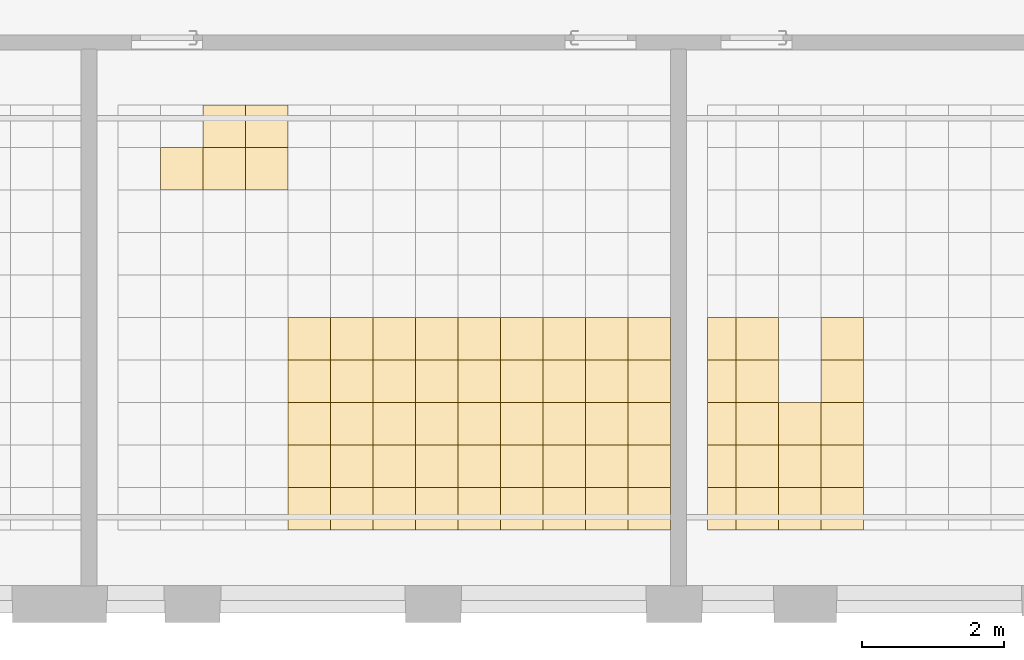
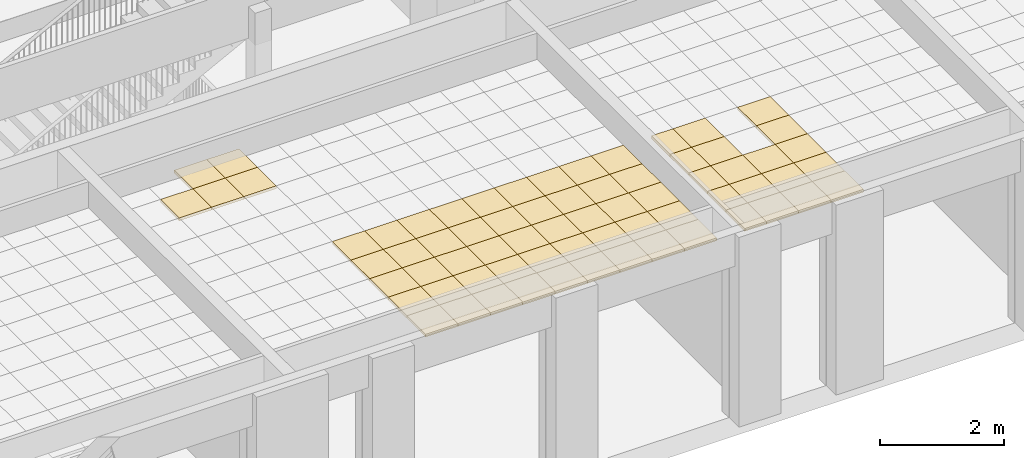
# One storey, part 71 of 79: 68 coverings.
"""IFC2X3 building model written with IfcOpenShell, lengths in millimetres."""

from ifc_helpers import new_model, entity, si_unit, converted_unit, derived_unit, money_unit, direction, frame, origin_with_axes, place, context, subcontext, project, spatial, faceted_brep, material, material_list, type_object, element, save


model = new_model("IFC2X3")

# Units and contexts
model_context = context("Model", 3, precision=0.01, world=origin_with_axes(), true_north=direction((0.0, 1.0)))
body_context = subcontext(model_context, "Body", "Model", "MODEL_VIEW")
ifc_project = project(units=[si_unit("LENGTHUNIT", "METRE", prefix="MILLI"), si_unit("AREAUNIT", "SQUARE_METRE"), si_unit("VOLUMEUNIT", "CUBIC_METRE"), converted_unit("PLANEANGLEUNIT", "DEGREE", entity("IfcPlaneAngleMeasure", 0.0174532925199), si_unit("PLANEANGLEUNIT", "RADIAN"), dimensions=[0, 0, 0, 0, 0, 0, 0]), si_unit("SOLIDANGLEUNIT", "STERADIAN"), money_unit("EUR"), converted_unit("TIMEUNIT", "Year", entity("IfcTimeMeasure", 31556926.0), si_unit("TIMEUNIT", "SECOND"), dimensions=[0, 0, 1, 0, 0, 0, 0]), si_unit("MASSUNIT", "GRAM", prefix="KILO"), si_unit("THERMODYNAMICTEMPERATUREUNIT", "DEGREE_CELSIUS"), si_unit("LUMINOUSINTENSITYUNIT", "LUMEN"), si_unit("ENERGYUNIT", "JOULE", prefix="MEGA"), derived_unit("THERMALCONDUCTANCEUNIT", [(si_unit("POWERUNIT", "WATT"), 1), (si_unit("LENGTHUNIT", "METRE"), -1), (si_unit("THERMODYNAMICTEMPERATUREUNIT", "KELVIN"), -1)]), derived_unit("SPECIFICHEATCAPACITYUNIT", [(si_unit("ENERGYUNIT", "JOULE"), 1), (si_unit("MASSUNIT", "GRAM", prefix="KILO"), -1), (si_unit("THERMODYNAMICTEMPERATUREUNIT", "KELVIN"), -1)]), derived_unit("MASSDENSITYUNIT", [(si_unit("MASSUNIT", "GRAM", prefix="KILO"), 1), (si_unit("VOLUMEUNIT", "CUBIC_METRE"), -1)])], contexts=[model_context])

# Site, building, storey
site_placement = place(None, origin_with_axes())
site = spatial("IfcSite", under=ifc_project, at=site_placement, Name="L.Koidula tn 11b", CompositionType="ELEMENT")
building_placement = place(site_placement, origin_with_axes())
building = spatial("IfcBuilding", under=site, at=building_placement, Name="Rakvere Riigigümnaasium", CompositionType="ELEMENT")
storey_placement = place(building_placement, frame((0.0, 0.0, 3720.0), z_axis=(0.0, 0.0, 1.0), x_axis=(1.0, 0.0, 0.0)))
storey = spatial("IfcBuildingStorey", under=building, at=storey_placement, Name="2.korrus +3,72", CompositionType="ELEMENT", Elevation=3720.0)

# Coverings
ifc_material_1 = material(Name="Karkass")
ifc_material_2 = material(Name="Kipsplaat")
ifc_material_list = material_list([ifc_material_1, ifc_material_2])
covering_type = type_object("IfcCoveringType", Name="SA-LV-Kips-moodul 55", PredefinedType="CEILING")
for number, where, z_axis, x_axis, name in (
    (1, (67449.7153767, 11090.4535941, 2750.0), (0.0, 0.0, 1.0), (1.0, 0.0, 0.0), "L-03"),
    (2, (68649.715325, 11090.4535941, 2750.0), (0.0, 0.0, 1.0), (1.0, 0.0, 0.0), "L-03"),
):
    element("IfcCovering", number, at=place(storey_placement, frame(where, z_axis=z_axis, x_axis=x_axis)), inside=storey, type_object=covering_type, material=ifc_material_list, Name=name, PredefinedType="CEILING", context=body_context, shape_type="Brep", body=[
        faceted_brep([(599.999948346, 0.0, 12.5), (599.999948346, 0.0, 54.5), (0.0, 0.0, 54.5), (0.0, 0.0, 12.5), (599.999948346, 600.0, 12.5), (599.999948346, 600.0, 54.5), (0.0, 600.0, 54.5), (0.0, 600.0, 12.5)], [[[0, 1, 2, 3]], [[4, 5, 1, 0]], [[2, 1, 5, 6]], [[3, 2, 6, 7]], [[3, 7, 4, 0]], [[7, 6, 5, 4]]]),
        faceted_brep([(0.0, 0.0, 0.0), (599.999948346, 0.0, 0.0), (599.999948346, 0.0, 12.5), (0.0, 0.0, 12.5), (0.0, 600.0, 0.0), (599.999948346, 600.0, 0.0), (599.999948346, 600.0, 12.5), (0.0, 600.0, 12.5)], [[[0, 1, 2, 3]], [[0, 4, 5, 1]], [[1, 5, 6, 2]], [[3, 2, 6, 7]], [[4, 0, 3, 7]], [[5, 4, 7, 6]]]),
    ])
for number, where, z_axis, x_axis, name in (
    (3, (71649.7151701, 8090.45359412, 2750.0), (0.0, 0.0, 1.0), (1.0, 0.0, 0.0), "L-03"),
    (4, (72849.7151184, 8690.45359412, 2750.0), (0.0, 0.0, 1.0), (1.0, 0.0, 0.0), "L-03"),
    (5, (72849.7151184, 8090.45359412, 2750.0), (0.0, 0.0, 1.0), (1.0, 0.0, 0.0), "L-03"),
    (6, (72849.7151184, 7490.45359412, 2750.0), (0.0, 0.0, 1.0), (1.0, 0.0, 0.0), "L-03"),
    (7, (74049.7150668, 7490.45359412, 2750.0), (0.0, 0.0, 1.0), (1.0, 0.0, 0.0), "L-03"),
):
    element("IfcCovering", number, at=place(storey_placement, frame(where, z_axis=z_axis, x_axis=x_axis)), inside=storey, type_object=covering_type, material=ifc_material_list, Name=name, PredefinedType="CEILING", context=body_context, shape_type="Brep", body=[
        faceted_brep([(600.0, 0.0, 12.5), (600.0, 0.0, 54.5), (0.0, 0.0, 54.5), (0.0, 0.0, 12.5), (600.0, 600.0, 12.5), (600.0, 600.0, 54.5), (0.0, 600.0, 54.5), (0.0, 600.0, 12.5)], [[[0, 1, 2, 3]], [[4, 5, 1, 0]], [[2, 1, 5, 6]], [[3, 2, 6, 7]], [[3, 7, 4, 0]], [[7, 6, 5, 4]]]),
        faceted_brep([(0.0, 0.0, 0.0), (600.0, 0.0, 0.0), (600.0, 0.0, 12.5), (0.0, 0.0, 12.5), (0.0, 600.0, 0.0), (600.0, 600.0, 0.0), (600.0, 600.0, 12.5), (0.0, 600.0, 12.5)], [[[0, 1, 2, 3]], [[0, 4, 5, 1]], [[1, 5, 6, 2]], [[3, 2, 6, 7]], [[4, 0, 3, 7]], [[5, 4, 7, 6]]]),
    ])
covering_1_placement = place(storey_placement, frame((73449.7151184, 6890.45359412, 2750.0), z_axis=(0.0, 0.0, 1.0), x_axis=(1.0, 0.0, 0.0)))
element("IfcCovering", 8, at=covering_1_placement, inside=storey, type_object=covering_type, material=ifc_material_list, Name="L-03", PredefinedType="CEILING", context=body_context, shape_type="Brep", body=[
    faceted_brep([(599.999948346, 0.0, 12.5), (599.999948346, 0.0, 54.5), (0.0, 0.0, 54.5), (0.0, 0.0, 12.5), (599.999948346, 600.0, 12.5), (599.999948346, 600.0, 54.5), (0.0, 600.0, 54.5), (0.0, 600.0, 12.5)], [[[0, 1, 2, 3]], [[4, 5, 1, 0]], [[2, 1, 5, 6]], [[3, 2, 6, 7]], [[3, 7, 4, 0]], [[7, 6, 5, 4]]]),
    faceted_brep([(0.0, 0.0, 0.0), (599.999948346, 0.0, 0.0), (599.999948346, 0.0, 12.5), (0.0, 0.0, 12.5), (0.0, 600.0, 0.0), (599.999948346, 600.0, 0.0), (599.999948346, 600.0, 12.5), (0.0, 600.0, 12.5)], [[[0, 1, 2, 3]], [[0, 4, 5, 1]], [[1, 5, 6, 2]], [[3, 2, 6, 7]], [[4, 0, 3, 7]], [[5, 4, 7, 6]]]),
])
covering_2_placement = place(storey_placement, frame((74049.7150668, 8690.45359412, 2750.0), z_axis=(0.0, 0.0, 1.0), x_axis=(1.0, 0.0, 0.0)))
element("IfcCovering", 9, at=covering_2_placement, inside=storey, type_object=covering_type, material=ifc_material_list, Name="L-03", PredefinedType="CEILING", context=body_context, shape_type="Brep", body=[
    faceted_brep([(600.0, 0.0, 12.5), (600.0, 0.0, 54.5), (0.0, 0.0, 54.5), (0.0, 0.0, 12.5), (600.0, 600.0, 12.5), (600.0, 600.0, 54.5), (0.0, 600.0, 54.5), (0.0, 600.0, 12.5)], [[[0, 1, 2, 3]], [[4, 5, 1, 0]], [[2, 1, 5, 6]], [[3, 2, 6, 7]], [[3, 7, 4, 0]], [[7, 6, 5, 4]]]),
    faceted_brep([(0.0, 0.0, 0.0), (600.0, 0.0, 0.0), (600.0, 0.0, 12.5), (0.0, 0.0, 12.5), (0.0, 600.0, 0.0), (600.0, 600.0, 0.0), (600.0, 600.0, 12.5), (0.0, 600.0, 12.5)], [[[0, 1, 2, 3]], [[0, 4, 5, 1]], [[1, 5, 6, 2]], [[3, 2, 6, 7]], [[4, 0, 3, 7]], [[5, 4, 7, 6]]]),
])
covering_3_placement = place(storey_placement, frame((73449.7151184, 6290.45359412, 2750.0), z_axis=(0.0, 0.0, 1.0), x_axis=(1.0, 0.0, 0.0)))
element("IfcCovering", 10, at=covering_3_placement, inside=storey, type_object=covering_type, material=ifc_material_list, Name="L-03", PredefinedType="CEILING", context=body_context, shape_type="Brep", body=[
    faceted_brep([(599.999948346, 0.0, 12.5), (599.999948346, 0.0, 54.5), (0.0, 0.0, 54.5), (0.0, 0.0, 12.5), (599.999948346, 600.0, 12.5), (599.999948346, 600.0, 54.5), (0.0, 600.0, 54.5), (0.0, 600.0, 12.5)], [[[0, 1, 2, 3]], [[4, 5, 1, 0]], [[2, 1, 5, 6]], [[3, 2, 6, 7]], [[3, 7, 4, 0]], [[7, 6, 5, 4]]]),
    faceted_brep([(0.0, 0.0, 0.0), (599.999948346, 0.0, 0.0), (599.999948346, 0.0, 12.5), (0.0, 0.0, 12.5), (0.0, 600.0, 0.0), (599.999948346, 600.0, 0.0), (599.999948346, 600.0, 12.5), (0.0, 600.0, 12.5)], [[[0, 1, 2, 3]], [[0, 4, 5, 1]], [[1, 5, 6, 2]], [[3, 2, 6, 7]], [[4, 0, 3, 7]], [[5, 4, 7, 6]]]),
])
for number, where, z_axis, x_axis, name in (
    (11, (74049.7150668, 8090.45359412, 2750.0), (0.0, 0.0, 1.0), (1.0, 0.0, 0.0), "L-03"),
    (12, (74049.7150668, 6290.45359412, 2750.0), (0.0, 0.0, 1.0), (1.0, 0.0, 0.0), "L-03"),
    (13, (74049.7150668, 6890.45359412, 2750.0), (0.0, 0.0, 1.0), (1.0, 0.0, 0.0), "L-03"),
):
    element("IfcCovering", number, at=place(storey_placement, frame(where, z_axis=z_axis, x_axis=x_axis)), inside=storey, type_object=covering_type, material=ifc_material_list, Name=name, PredefinedType="CEILING", context=body_context, shape_type="Brep", body=[
        faceted_brep([(600.0, 0.0, 12.5), (600.0, 0.0, 54.5), (0.0, 0.0, 54.5), (0.0, 0.0, 12.5), (600.0, 600.0, 12.5), (600.0, 600.0, 54.5), (0.0, 600.0, 54.5), (0.0, 600.0, 12.5)], [[[0, 1, 2, 3]], [[4, 5, 1, 0]], [[2, 1, 5, 6]], [[3, 2, 6, 7]], [[3, 7, 4, 0]], [[7, 6, 5, 4]]]),
        faceted_brep([(0.0, 0.0, 0.0), (600.0, 0.0, 0.0), (600.0, 0.0, 12.5), (0.0, 0.0, 12.5), (0.0, 600.0, 0.0), (600.0, 600.0, 0.0), (600.0, 600.0, 12.5), (0.0, 600.0, 12.5)], [[[0, 1, 2, 3]], [[0, 4, 5, 1]], [[1, 5, 6, 2]], [[3, 2, 6, 7]], [[4, 0, 3, 7]], [[5, 4, 7, 6]]]),
    ])
covering_4_placement = place(storey_placement, frame((73449.7151184, 7490.45359412, 2750.0), z_axis=(0.0, 0.0, 1.0), x_axis=(1.0, 0.0, 0.0)))
element("IfcCovering", 14, at=covering_4_placement, inside=storey, type_object=covering_type, material=ifc_material_list, Name="L-03", PredefinedType="CEILING", context=body_context, shape_type="Brep", body=[
    faceted_brep([(599.999948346, 0.0, 12.5), (599.999948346, 0.0, 54.5), (0.0, 0.0, 54.5), (0.0, 0.0, 12.5), (599.999948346, 600.0, 12.5), (599.999948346, 600.0, 54.5), (0.0, 600.0, 54.5), (0.0, 600.0, 12.5)], [[[0, 1, 2, 3]], [[4, 5, 1, 0]], [[2, 1, 5, 6]], [[3, 2, 6, 7]], [[3, 7, 4, 0]], [[7, 6, 5, 4]]]),
    faceted_brep([(0.0, 0.0, 0.0), (599.999948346, 0.0, 0.0), (599.999948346, 0.0, 12.5), (0.0, 0.0, 12.5), (0.0, 600.0, 0.0), (599.999948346, 600.0, 0.0), (599.999948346, 600.0, 12.5), (0.0, 600.0, 12.5)], [[[0, 1, 2, 3]], [[0, 4, 5, 1]], [[1, 5, 6, 2]], [[3, 2, 6, 7]], [[4, 0, 3, 7]], [[5, 4, 7, 6]]]),
])
covering_5_placement = place(storey_placement, frame((72849.7151184, 6290.45359412, 2750.0), z_axis=(0.0, 0.0, 1.0), x_axis=(1.0, 0.0, 0.0)))
element("IfcCovering", 15, at=covering_5_placement, inside=storey, type_object=covering_type, material=ifc_material_list, Name="L-03", PredefinedType="CEILING", context=body_context, shape_type="Brep", body=[
    faceted_brep([(600.0, 0.0, 12.5), (600.0, 0.0, 54.5), (0.0, 0.0, 54.5), (0.0, 0.0, 12.5), (600.0, 600.0, 12.5), (600.0, 600.0, 54.5), (0.0, 600.0, 54.5), (0.0, 600.0, 12.5)], [[[0, 1, 2, 3]], [[4, 5, 1, 0]], [[2, 1, 5, 6]], [[3, 2, 6, 7]], [[3, 7, 4, 0]], [[7, 6, 5, 4]]]),
    faceted_brep([(0.0, 0.0, 0.0), (600.0, 0.0, 0.0), (600.0, 0.0, 12.5), (0.0, 0.0, 12.5), (0.0, 600.0, 0.0), (600.0, 600.0, 0.0), (600.0, 600.0, 12.5), (0.0, 600.0, 12.5)], [[[0, 1, 2, 3]], [[0, 4, 5, 1]], [[1, 5, 6, 2]], [[3, 2, 6, 7]], [[4, 0, 3, 7]], [[5, 4, 7, 6]]]),
])
covering_6_placement = place(storey_placement, frame((73449.7151184, 8090.45359412, 2750.0), z_axis=(0.0, 0.0, 1.0), x_axis=(1.0, 0.0, 0.0)))
element("IfcCovering", 16, at=covering_6_placement, inside=storey, type_object=covering_type, material=ifc_material_list, Name="L-03", PredefinedType="CEILING", context=body_context, shape_type="Brep", body=[
    faceted_brep([(599.999948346, 0.0, 12.5), (599.999948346, 0.0, 54.5), (0.0, 0.0, 54.5), (0.0, 0.0, 12.5), (599.999948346, 600.0, 12.5), (599.999948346, 600.0, 54.5), (0.0, 600.0, 54.5), (0.0, 600.0, 12.5)], [[[0, 1, 2, 3]], [[4, 5, 1, 0]], [[2, 1, 5, 6]], [[3, 2, 6, 7]], [[3, 7, 4, 0]], [[7, 6, 5, 4]]]),
    faceted_brep([(0.0, 0.0, 0.0), (599.999948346, 0.0, 0.0), (599.999948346, 0.0, 12.5), (0.0, 0.0, 12.5), (0.0, 600.0, 0.0), (599.999948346, 600.0, 0.0), (599.999948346, 600.0, 12.5), (0.0, 600.0, 12.5)], [[[0, 1, 2, 3]], [[0, 4, 5, 1]], [[1, 5, 6, 2]], [[3, 2, 6, 7]], [[4, 0, 3, 7]], [[5, 4, 7, 6]]]),
])
for number, where, z_axis, x_axis, name in (
    (17, (71649.7151701, 8690.45359412, 2750.0), (0.0, 0.0, 1.0), (1.0, 0.0, 0.0), "L-03"),
    (18, (72849.7151184, 6890.45359412, 2750.0), (0.0, 0.0, 1.0), (1.0, 0.0, 0.0), "L-03"),
):
    element("IfcCovering", number, at=place(storey_placement, frame(where, z_axis=z_axis, x_axis=x_axis)), inside=storey, type_object=covering_type, material=ifc_material_list, Name=name, PredefinedType="CEILING", context=body_context, shape_type="Brep", body=[
        faceted_brep([(600.0, 0.0, 12.5), (600.0, 0.0, 54.5), (0.0, 0.0, 54.5), (0.0, 0.0, 12.5), (600.0, 600.0, 12.5), (600.0, 600.0, 54.5), (0.0, 600.0, 54.5), (0.0, 600.0, 12.5)], [[[0, 1, 2, 3]], [[4, 5, 1, 0]], [[2, 1, 5, 6]], [[3, 2, 6, 7]], [[3, 7, 4, 0]], [[7, 6, 5, 4]]]),
        faceted_brep([(0.0, 0.0, 0.0), (600.0, 0.0, 0.0), (600.0, 0.0, 12.5), (0.0, 0.0, 12.5), (0.0, 600.0, 0.0), (600.0, 600.0, 0.0), (600.0, 600.0, 12.5), (0.0, 600.0, 12.5)], [[[0, 1, 2, 3]], [[0, 4, 5, 1]], [[1, 5, 6, 2]], [[3, 2, 6, 7]], [[4, 0, 3, 7]], [[5, 4, 7, 6]]]),
    ])
covering_7_placement = place(storey_placement, frame((73449.7151184, 8690.45359412, 2750.0), z_axis=(0.0, 0.0, 1.0), x_axis=(1.0, 0.0, 0.0)))
element("IfcCovering", 19, at=covering_7_placement, inside=storey, type_object=covering_type, material=ifc_material_list, Name="L-03", PredefinedType="CEILING", context=body_context, shape_type="Brep", body=[
    faceted_brep([(599.999948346, 0.0, 12.5), (599.999948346, 0.0, 54.5), (0.0, 0.0, 54.5), (0.0, 0.0, 12.5), (599.999948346, 600.0, 12.5), (599.999948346, 600.0, 54.5), (0.0, 600.0, 54.5), (0.0, 600.0, 12.5)], [[[0, 1, 2, 3]], [[4, 5, 1, 0]], [[2, 1, 5, 6]], [[3, 2, 6, 7]], [[3, 7, 4, 0]], [[7, 6, 5, 4]]]),
    faceted_brep([(0.0, 0.0, 0.0), (599.999948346, 0.0, 0.0), (599.999948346, 0.0, 12.5), (0.0, 0.0, 12.5), (0.0, 600.0, 0.0), (599.999948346, 600.0, 0.0), (599.999948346, 600.0, 12.5), (0.0, 600.0, 12.5)], [[[0, 1, 2, 3]], [[0, 4, 5, 1]], [[1, 5, 6, 2]], [[3, 2, 6, 7]], [[4, 0, 3, 7]], [[5, 4, 7, 6]]]),
])
for number, where, z_axis, x_axis, name in (
    (20, (71649.7151701, 6290.45359412, 2750.0), (0.0, 0.0, 1.0), (1.0, 0.0, 0.0), "L-03"),
    (21, (71649.7151701, 6890.45359412, 2750.0), (0.0, 0.0, 1.0), (1.0, 0.0, 0.0), "L-03"),
):
    element("IfcCovering", number, at=place(storey_placement, frame(where, z_axis=z_axis, x_axis=x_axis)), inside=storey, type_object=covering_type, material=ifc_material_list, Name=name, PredefinedType="CEILING", context=body_context, shape_type="Brep", body=[
        faceted_brep([(600.0, 0.0, 12.5), (600.0, 0.0, 54.5), (0.0, 0.0, 54.5), (0.0, 0.0, 12.5), (600.0, 600.0, 12.5), (600.0, 600.0, 54.5), (0.0, 600.0, 54.5), (0.0, 600.0, 12.5)], [[[0, 1, 2, 3]], [[4, 5, 1, 0]], [[2, 1, 5, 6]], [[3, 2, 6, 7]], [[3, 7, 4, 0]], [[7, 6, 5, 4]]]),
        faceted_brep([(0.0, 0.0, 0.0), (600.0, 0.0, 0.0), (600.0, 0.0, 12.5), (0.0, 0.0, 12.5), (0.0, 600.0, 0.0), (600.0, 600.0, 0.0), (600.0, 600.0, 12.5), (0.0, 600.0, 12.5)], [[[0, 1, 2, 3]], [[0, 4, 5, 1]], [[1, 5, 6, 2]], [[3, 2, 6, 7]], [[4, 0, 3, 7]], [[5, 4, 7, 6]]]),
    ])
for number, where, z_axis, x_axis, name in (
    (22, (69849.7152734, 6290.45359412, 2750.0), (0.0, 0.0, 1.0), (1.0, 0.0, 0.0), "L-03"),
    (23, (72249.7151701, 6290.45359412, 2750.0), (0.0, 0.0, 1.0), (1.0, 0.0, 0.0), "L-03"),
    (24, (69849.7152734, 7490.45359412, 2750.0), (0.0, 0.0, 1.0), (1.0, 0.0, 0.0), "L-03"),
    (25, (69849.7152734, 8090.45359412, 2750.0), (0.0, 0.0, 1.0), (1.0, 0.0, 0.0), "L-03"),
    (26, (72249.7151701, 7490.45359412, 2750.0), (0.0, 0.0, 1.0), (1.0, 0.0, 0.0), "L-03"),
    (27, (69849.7152734, 8690.45359412, 2750.0), (0.0, 0.0, 1.0), (1.0, 0.0, 0.0), "L-03"),
    (28, (72249.7151701, 8090.45359412, 2750.0), (0.0, 0.0, 1.0), (1.0, 0.0, 0.0), "L-03"),
    (29, (72249.7151701, 8690.45359412, 2750.0), (0.0, 0.0, 1.0), (1.0, 0.0, 0.0), "L-03"),
):
    element("IfcCovering", number, at=place(storey_placement, frame(where, z_axis=z_axis, x_axis=x_axis)), inside=storey, type_object=covering_type, material=ifc_material_list, Name=name, PredefinedType="CEILING", context=body_context, shape_type="Brep", body=[
        faceted_brep([(599.999948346, 0.0, 12.5), (599.999948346, 0.0, 54.5), (0.0, 0.0, 54.5), (0.0, 0.0, 12.5), (599.999948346, 600.0, 12.5), (599.999948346, 600.0, 54.5), (0.0, 600.0, 54.5), (0.0, 600.0, 12.5)], [[[0, 1, 2, 3]], [[4, 5, 1, 0]], [[2, 1, 5, 6]], [[3, 2, 6, 7]], [[3, 7, 4, 0]], [[7, 6, 5, 4]]]),
        faceted_brep([(0.0, 0.0, 0.0), (599.999948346, 0.0, 0.0), (599.999948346, 0.0, 12.5), (0.0, 0.0, 12.5), (0.0, 600.0, 0.0), (599.999948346, 600.0, 0.0), (599.999948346, 600.0, 12.5), (0.0, 600.0, 12.5)], [[[0, 1, 2, 3]], [[0, 4, 5, 1]], [[1, 5, 6, 2]], [[3, 2, 6, 7]], [[4, 0, 3, 7]], [[5, 4, 7, 6]]]),
    ])
for number, where, z_axis, x_axis, name in (
    (30, (68049.715325, 11090.4535941, 2750.0), (0.0, 0.0, 1.0), (1.0, 0.0, 0.0), "L-03"),
    (31, (68049.715325, 11690.4535941, 2750.0), (0.0, 0.0, 1.0), (1.0, 0.0, 0.0), "L-03"),
    (32, (70449.7152217, 6890.45359412, 2750.0), (0.0, 0.0, 1.0), (1.0, 0.0, 0.0), "L-03"),
    (33, (70449.7152217, 6290.45359412, 2750.0), (0.0, 0.0, 1.0), (1.0, 0.0, 0.0), "L-03"),
    (34, (69249.7152734, 8090.45359412, 2750.0), (0.0, 0.0, 1.0), (1.0, 0.0, 0.0), "L-03"),
    (35, (69249.7152734, 7490.45359412, 2750.0), (0.0, 0.0, 1.0), (1.0, 0.0, 0.0), "L-03"),
):
    element("IfcCovering", number, at=place(storey_placement, frame(where, z_axis=z_axis, x_axis=x_axis)), inside=storey, type_object=covering_type, material=ifc_material_list, Name=name, PredefinedType="CEILING", context=body_context, shape_type="Brep", body=[
        faceted_brep([(600.0, 0.0, 12.5), (600.0, 0.0, 54.5), (0.0, 0.0, 54.5), (0.0, 0.0, 12.5), (600.0, 600.0, 12.5), (600.0, 600.0, 54.5), (0.0, 600.0, 54.5), (0.0, 600.0, 12.5)], [[[0, 1, 2, 3]], [[4, 5, 1, 0]], [[2, 1, 5, 6]], [[3, 2, 6, 7]], [[3, 7, 4, 0]], [[7, 6, 5, 4]]]),
        faceted_brep([(0.0, 0.0, 0.0), (600.0, 0.0, 0.0), (600.0, 0.0, 12.5), (0.0, 0.0, 12.5), (0.0, 600.0, 0.0), (600.0, 600.0, 0.0), (600.0, 600.0, 12.5), (0.0, 600.0, 12.5)], [[[0, 1, 2, 3]], [[0, 4, 5, 1]], [[1, 5, 6, 2]], [[3, 2, 6, 7]], [[4, 0, 3, 7]], [[5, 4, 7, 6]]]),
    ])
covering_8_placement = place(storey_placement, frame((69849.7152734, 6890.45359412, 2750.0), z_axis=(0.0, 0.0, 1.0), x_axis=(1.0, 0.0, 0.0)))
element("IfcCovering", 36, at=covering_8_placement, inside=storey, type_object=covering_type, material=ifc_material_list, Name="L-03", PredefinedType="CEILING", context=body_context, shape_type="Brep", body=[
    faceted_brep([(599.999948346, 0.0, 12.5), (599.999948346, 0.0, 54.5), (0.0, 0.0, 54.5), (0.0, 0.0, 12.5), (599.999948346, 600.0, 12.5), (599.999948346, 600.0, 54.5), (0.0, 600.0, 54.5), (0.0, 600.0, 12.5)], [[[0, 1, 2, 3]], [[4, 5, 1, 0]], [[2, 1, 5, 6]], [[3, 2, 6, 7]], [[3, 7, 4, 0]], [[7, 6, 5, 4]]]),
    faceted_brep([(0.0, 0.0, 0.0), (599.999948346, 0.0, 0.0), (599.999948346, 0.0, 12.5), (0.0, 0.0, 12.5), (0.0, 600.0, 0.0), (599.999948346, 600.0, 0.0), (599.999948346, 600.0, 12.5), (0.0, 600.0, 12.5)], [[[0, 1, 2, 3]], [[0, 4, 5, 1]], [[1, 5, 6, 2]], [[3, 2, 6, 7]], [[4, 0, 3, 7]], [[5, 4, 7, 6]]]),
])
for number, where, z_axis, x_axis, name in (
    (37, (69249.7152734, 6290.45359412, 2750.0), (0.0, 0.0, 1.0), (1.0, 0.0, 0.0), "L-03"),
    (38, (70449.7152217, 8690.45359412, 2750.0), (0.0, 0.0, 1.0), (1.0, 0.0, 0.0), "L-03"),
):
    element("IfcCovering", number, at=place(storey_placement, frame(where, z_axis=z_axis, x_axis=x_axis)), inside=storey, type_object=covering_type, material=ifc_material_list, Name=name, PredefinedType="CEILING", context=body_context, shape_type="Brep", body=[
        faceted_brep([(600.0, 0.0, 12.5), (600.0, 0.0, 54.5), (0.0, 0.0, 54.5), (0.0, 0.0, 12.5), (600.0, 600.0, 12.5), (600.0, 600.0, 54.5), (0.0, 600.0, 54.5), (0.0, 600.0, 12.5)], [[[0, 1, 2, 3]], [[4, 5, 1, 0]], [[2, 1, 5, 6]], [[3, 2, 6, 7]], [[3, 7, 4, 0]], [[7, 6, 5, 4]]]),
        faceted_brep([(0.0, 0.0, 0.0), (600.0, 0.0, 0.0), (600.0, 0.0, 12.5), (0.0, 0.0, 12.5), (0.0, 600.0, 0.0), (600.0, 600.0, 0.0), (600.0, 600.0, 12.5), (0.0, 600.0, 12.5)], [[[0, 1, 2, 3]], [[0, 4, 5, 1]], [[1, 5, 6, 2]], [[3, 2, 6, 7]], [[4, 0, 3, 7]], [[5, 4, 7, 6]]]),
    ])
covering_9_placement = place(storey_placement, frame((68649.715325, 11690.4535941, 2750.0), z_axis=(0.0, 0.0, 1.0), x_axis=(1.0, 0.0, 0.0)))
element("IfcCovering", 39, at=covering_9_placement, inside=storey, type_object=covering_type, material=ifc_material_list, Name="L-03", PredefinedType="CEILING", context=body_context, shape_type="Brep", body=[
    faceted_brep([(599.999948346, 0.0, 12.5), (599.999948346, 0.0, 54.5), (0.0, 0.0, 54.5), (0.0, 0.0, 12.5), (599.999948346, 600.0, 12.5), (599.999948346, 600.0, 54.5), (0.0, 600.0, 54.5), (0.0, 600.0, 12.5)], [[[0, 1, 2, 3]], [[4, 5, 1, 0]], [[2, 1, 5, 6]], [[3, 2, 6, 7]], [[3, 7, 4, 0]], [[7, 6, 5, 4]]]),
    faceted_brep([(0.0, 0.0, 0.0), (599.999948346, 0.0, 0.0), (599.999948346, 0.0, 12.5), (0.0, 0.0, 12.5), (0.0, 600.0, 0.0), (599.999948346, 600.0, 0.0), (599.999948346, 600.0, 12.5), (0.0, 600.0, 12.5)], [[[0, 1, 2, 3]], [[0, 4, 5, 1]], [[1, 5, 6, 2]], [[3, 2, 6, 7]], [[4, 0, 3, 7]], [[5, 4, 7, 6]]]),
])
covering_10_placement = place(storey_placement, frame((70449.7152217, 8090.45359412, 2750.0), z_axis=(0.0, 0.0, 1.0), x_axis=(1.0, 0.0, 0.0)))
element("IfcCovering", 40, at=covering_10_placement, inside=storey, type_object=covering_type, material=ifc_material_list, Name="L-03", PredefinedType="CEILING", context=body_context, shape_type="Brep", body=[
    faceted_brep([(600.0, 0.0, 12.5), (600.0, 0.0, 54.5), (0.0, 0.0, 54.5), (0.0, 0.0, 12.5), (600.0, 600.0, 12.5), (600.0, 600.0, 54.5), (0.0, 600.0, 54.5), (0.0, 600.0, 12.5)], [[[0, 1, 2, 3]], [[4, 5, 1, 0]], [[2, 1, 5, 6]], [[3, 2, 6, 7]], [[3, 7, 4, 0]], [[7, 6, 5, 4]]]),
    faceted_brep([(0.0, 0.0, 0.0), (600.0, 0.0, 0.0), (600.0, 0.0, 12.5), (0.0, 0.0, 12.5), (0.0, 600.0, 0.0), (600.0, 600.0, 0.0), (600.0, 600.0, 12.5), (0.0, 600.0, 12.5)], [[[0, 1, 2, 3]], [[0, 4, 5, 1]], [[1, 5, 6, 2]], [[3, 2, 6, 7]], [[4, 0, 3, 7]], [[5, 4, 7, 6]]]),
])
covering_11_placement = place(storey_placement, frame((72249.7151701, 6890.45359412, 2750.0), z_axis=(0.0, 0.0, 1.0), x_axis=(1.0, 0.0, 0.0)))
element("IfcCovering", 41, at=covering_11_placement, inside=storey, type_object=covering_type, material=ifc_material_list, Name="L-03", PredefinedType="CEILING", context=body_context, shape_type="Brep", body=[
    faceted_brep([(599.999948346, 0.0, 12.5), (599.999948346, 0.0, 54.5), (0.0, 0.0, 54.5), (0.0, 0.0, 12.5), (599.999948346, 600.0, 12.5), (599.999948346, 600.0, 54.5), (0.0, 600.0, 54.5), (0.0, 600.0, 12.5)], [[[0, 1, 2, 3]], [[4, 5, 1, 0]], [[2, 1, 5, 6]], [[3, 2, 6, 7]], [[3, 7, 4, 0]], [[7, 6, 5, 4]]]),
    faceted_brep([(0.0, 0.0, 0.0), (599.999948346, 0.0, 0.0), (599.999948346, 0.0, 12.5), (0.0, 0.0, 12.5), (0.0, 600.0, 0.0), (599.999948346, 600.0, 0.0), (599.999948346, 600.0, 12.5), (0.0, 600.0, 12.5)], [[[0, 1, 2, 3]], [[0, 4, 5, 1]], [[1, 5, 6, 2]], [[3, 2, 6, 7]], [[4, 0, 3, 7]], [[5, 4, 7, 6]]]),
])
covering_12_placement = place(storey_placement, frame((70449.7152217, 7490.45359412, 2750.0), z_axis=(0.0, 0.0, 1.0), x_axis=(1.0, 0.0, 0.0)))
element("IfcCovering", 42, at=covering_12_placement, inside=storey, type_object=covering_type, material=ifc_material_list, Name="L-03", PredefinedType="CEILING", context=body_context, shape_type="Brep", body=[
    faceted_brep([(600.0, 0.0, 12.5), (600.0, 0.0, 54.5), (0.0, 0.0, 54.5), (0.0, 0.0, 12.5), (600.0, 600.0, 12.5), (600.0, 600.0, 54.5), (0.0, 600.0, 54.5), (0.0, 600.0, 12.5)], [[[0, 1, 2, 3]], [[4, 5, 1, 0]], [[2, 1, 5, 6]], [[3, 2, 6, 7]], [[3, 7, 4, 0]], [[7, 6, 5, 4]]]),
    faceted_brep([(0.0, 0.0, 0.0), (600.0, 0.0, 0.0), (600.0, 0.0, 12.5), (0.0, 0.0, 12.5), (0.0, 600.0, 0.0), (600.0, 600.0, 0.0), (600.0, 600.0, 12.5), (0.0, 600.0, 12.5)], [[[0, 1, 2, 3]], [[0, 4, 5, 1]], [[1, 5, 6, 2]], [[3, 2, 6, 7]], [[4, 0, 3, 7]], [[5, 4, 7, 6]]]),
])
for number, where, z_axis, x_axis, name in (
    (43, (71049.7152217, 6890.45359412, 2750.0), (0.0, 0.0, 1.0), (1.0, 0.0, 0.0), "L-03"),
    (44, (71049.7152217, 6290.45359412, 2750.0), (0.0, 0.0, 1.0), (1.0, 0.0, 0.0), "L-03"),
):
    element("IfcCovering", number, at=place(storey_placement, frame(where, z_axis=z_axis, x_axis=x_axis)), inside=storey, type_object=covering_type, material=ifc_material_list, Name=name, PredefinedType="CEILING", context=body_context, shape_type="Brep", body=[
        faceted_brep([(599.999948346, 0.0, 12.5), (599.999948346, 0.0, 54.5), (0.0, 0.0, 54.5), (0.0, 0.0, 12.5), (599.999948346, 600.0, 12.5), (599.999948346, 600.0, 54.5), (0.0, 600.0, 54.5), (0.0, 600.0, 12.5)], [[[0, 1, 2, 3]], [[4, 5, 1, 0]], [[2, 1, 5, 6]], [[3, 2, 6, 7]], [[3, 7, 4, 0]], [[7, 6, 5, 4]]]),
        faceted_brep([(0.0, 0.0, 0.0), (599.999948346, 0.0, 0.0), (599.999948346, 0.0, 12.5), (0.0, 0.0, 12.5), (0.0, 600.0, 0.0), (599.999948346, 600.0, 0.0), (599.999948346, 600.0, 12.5), (0.0, 600.0, 12.5)], [[[0, 1, 2, 3]], [[0, 4, 5, 1]], [[1, 5, 6, 2]], [[3, 2, 6, 7]], [[4, 0, 3, 7]], [[5, 4, 7, 6]]]),
    ])
for number, where, z_axis, x_axis, name in (
    (45, (69249.7152734, 6890.45359412, 2750.0), (0.0, 0.0, 1.0), (1.0, 0.0, 0.0), "L-03"),
    (46, (69249.7152734, 8690.45359412, 2750.0), (0.0, 0.0, 1.0), (1.0, 0.0, 0.0), "L-03"),
    (47, (71649.7151701, 7490.45359412, 2750.0), (0.0, 0.0, 1.0), (1.0, 0.0, 0.0), "L-03"),
):
    element("IfcCovering", number, at=place(storey_placement, frame(where, z_axis=z_axis, x_axis=x_axis)), inside=storey, type_object=covering_type, material=ifc_material_list, Name=name, PredefinedType="CEILING", context=body_context, shape_type="Brep", body=[
        faceted_brep([(600.0, 0.0, 12.5), (600.0, 0.0, 54.5), (0.0, 0.0, 54.5), (0.0, 0.0, 12.5), (600.0, 600.0, 12.5), (600.0, 600.0, 54.5), (0.0, 600.0, 54.5), (0.0, 600.0, 12.5)], [[[0, 1, 2, 3]], [[4, 5, 1, 0]], [[2, 1, 5, 6]], [[3, 2, 6, 7]], [[3, 7, 4, 0]], [[7, 6, 5, 4]]]),
        faceted_brep([(0.0, 0.0, 0.0), (600.0, 0.0, 0.0), (600.0, 0.0, 12.5), (0.0, 0.0, 12.5), (0.0, 600.0, 0.0), (600.0, 600.0, 0.0), (600.0, 600.0, 12.5), (0.0, 600.0, 12.5)], [[[0, 1, 2, 3]], [[0, 4, 5, 1]], [[1, 5, 6, 2]], [[3, 2, 6, 7]], [[4, 0, 3, 7]], [[5, 4, 7, 6]]]),
    ])
for number, where, z_axis, x_axis, name in (
    (48, (71049.7152217, 8090.45359412, 2750.0), (0.0, 0.0, 1.0), (1.0, 0.0, 0.0), "L-03"),
    (49, (71049.7152217, 8690.45359412, 2750.0), (0.0, 0.0, 1.0), (1.0, 0.0, 0.0), "L-03"),
    (50, (71049.7152217, 7490.45359412, 2750.0), (0.0, 0.0, 1.0), (1.0, 0.0, 0.0), "L-03"),
):
    element("IfcCovering", number, at=place(storey_placement, frame(where, z_axis=z_axis, x_axis=x_axis)), inside=storey, type_object=covering_type, material=ifc_material_list, Name=name, PredefinedType="CEILING", context=body_context, shape_type="Brep", body=[
        faceted_brep([(599.999948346, 0.0, 12.5), (599.999948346, 0.0, 54.5), (0.0, 0.0, 54.5), (0.0, 0.0, 12.5), (599.999948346, 600.0, 12.5), (599.999948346, 600.0, 54.5), (0.0, 600.0, 54.5), (0.0, 600.0, 12.5)], [[[0, 1, 2, 3]], [[4, 5, 1, 0]], [[2, 1, 5, 6]], [[3, 2, 6, 7]], [[3, 7, 4, 0]], [[7, 6, 5, 4]]]),
        faceted_brep([(0.0, 0.0, 0.0), (599.999948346, 0.0, 0.0), (599.999948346, 0.0, 12.5), (0.0, 0.0, 12.5), (0.0, 600.0, 0.0), (599.999948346, 600.0, 0.0), (599.999948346, 600.0, 12.5), (0.0, 600.0, 12.5)], [[[0, 1, 2, 3]], [[0, 4, 5, 1]], [[1, 5, 6, 2]], [[3, 2, 6, 7]], [[4, 0, 3, 7]], [[5, 4, 7, 6]]]),
    ])
for number, where, z_axis, x_axis, name in (
    (51, (76169.7176627, 6290.45359412, 2750.0), (0.0, 0.0, 1.0), (1.0, 0.0, 0.0), "L-03"),
    (52, (76169.7176627, 6890.45359412, 2750.0), (0.0, 0.0, 1.0), (1.0, 0.0, 0.0), "L-03"),
):
    element("IfcCovering", number, at=place(storey_placement, frame(where, z_axis=z_axis, x_axis=x_axis)), inside=storey, type_object=covering_type, material=ifc_material_list, Name=name, PredefinedType="CEILING", context=body_context, shape_type="Brep", body=[
        faceted_brep([(600.0, 0.0, 12.5), (600.0, 0.0, 54.5), (0.0, 0.0, 54.5), (0.0, 0.0, 12.5), (600.0, 600.0, 12.5), (600.0, 600.0, 54.5), (0.0, 600.0, 54.5), (0.0, 600.0, 12.5)], [[[0, 1, 2, 3]], [[4, 5, 1, 0]], [[2, 1, 5, 6]], [[3, 2, 6, 7]], [[3, 7, 4, 0]], [[7, 6, 5, 4]]]),
        faceted_brep([(0.0, 0.0, 0.0), (600.0, 0.0, 0.0), (600.0, 0.0, 12.5), (0.0, 0.0, 12.5), (0.0, 600.0, 0.0), (600.0, 600.0, 0.0), (600.0, 600.0, 12.5), (0.0, 600.0, 12.5)], [[[0, 1, 2, 3]], [[0, 4, 5, 1]], [[1, 5, 6, 2]], [[3, 2, 6, 7]], [[4, 0, 3, 7]], [[5, 4, 7, 6]]]),
    ])
for number, where, z_axis, x_axis, name in (
    (53, (75569.7177143, 8690.45359412, 2750.0), (0.0, 0.0, 1.0), (1.0, 0.0, 0.0), "L-03"),
    (54, (75569.7177143, 8090.45359412, 2750.0), (0.0, 0.0, 1.0), (1.0, 0.0, 0.0), "L-03"),
    (55, (75569.7177143, 7490.45359412, 2750.0), (0.0, 0.0, 1.0), (1.0, 0.0, 0.0), "L-03"),
    (56, (75569.7177143, 6290.45359412, 2750.0), (0.0, 0.0, 1.0), (1.0, 0.0, 0.0), "L-03"),
    (57, (75569.7177143, 6890.45359412, 2750.0), (0.0, 0.0, 1.0), (1.0, 0.0, 0.0), "L-03"),
):
    element("IfcCovering", number, at=place(storey_placement, frame(where, z_axis=z_axis, x_axis=x_axis)), inside=storey, type_object=covering_type, material=ifc_material_list, Name=name, PredefinedType="CEILING", context=body_context, shape_type="Brep", body=[
        faceted_brep([(599.999948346, 0.0, 12.5), (599.999948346, 0.0, 54.5), (0.0, 0.0, 54.5), (0.0, 0.0, 12.5), (599.999948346, 600.0, 12.5), (599.999948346, 600.0, 54.5), (0.0, 600.0, 54.5), (0.0, 600.0, 12.5)], [[[0, 1, 2, 3]], [[4, 5, 1, 0]], [[2, 1, 5, 6]], [[3, 2, 6, 7]], [[3, 7, 4, 0]], [[7, 6, 5, 4]]]),
        faceted_brep([(0.0, 0.0, 0.0), (599.999948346, 0.0, 0.0), (599.999948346, 0.0, 12.5), (0.0, 0.0, 12.5), (0.0, 600.0, 0.0), (599.999948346, 600.0, 0.0), (599.999948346, 600.0, 12.5), (0.0, 600.0, 12.5)], [[[0, 1, 2, 3]], [[0, 4, 5, 1]], [[1, 5, 6, 2]], [[3, 2, 6, 7]], [[4, 0, 3, 7]], [[5, 4, 7, 6]]]),
    ])
for number, where, z_axis, x_axis, name in (
    (58, (75169.7165468, 7490.45359412, 2750.0), (0.0, 0.0, 1.0), (1.0, 0.0, 0.0), "L-03"),
    (59, (75169.7165468, 8090.45359412, 2750.0), (0.0, 0.0, 1.0), (1.0, 0.0, 0.0), "L-03"),
    (60, (75169.7165468, 8690.45359412, 2750.0), (0.0, 0.0, 1.0), (1.0, 0.0, 0.0), "L-03"),
    (61, (75169.7165468, 6290.45359412, 2750.0), (0.0, 0.0, 1.0), (1.0, 0.0, 0.0), "L-03"),
    (62, (75169.7165468, 6890.45359412, 2750.0), (0.0, 0.0, 1.0), (1.0, 0.0, 0.0), "L-03"),
):
    element("IfcCovering", number, at=place(storey_placement, frame(where, z_axis=z_axis, x_axis=x_axis)), inside=storey, type_object=covering_type, material=ifc_material_list, Name=name, PredefinedType="CEILING", context=body_context, shape_type="Brep", body=[
        faceted_brep([(400.001167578, 0.0, 12.5), (400.001167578, 0.0, 54.5), (0.0, 0.0, 54.5), (0.0, 0.0, 12.5), (400.001167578, 600.0, 12.5), (400.001167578, 600.0, 54.5), (0.0, 600.0, 54.5), (0.0, 600.0, 12.5)], [[[0, 1, 2, 3]], [[4, 5, 1, 0]], [[2, 1, 5, 6]], [[3, 2, 6, 7]], [[3, 7, 4, 0]], [[7, 6, 5, 4]]]),
        faceted_brep([(0.0, 0.0, 0.0), (400.001167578, 0.0, 0.0), (400.001167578, 0.0, 12.5), (0.0, 0.0, 12.5), (0.0, 600.0, 0.0), (400.001167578, 600.0, 0.0), (400.001167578, 600.0, 12.5), (0.0, 600.0, 12.5)], [[[0, 1, 2, 3]], [[0, 4, 5, 1]], [[1, 5, 6, 2]], [[3, 2, 6, 7]], [[4, 0, 3, 7]], [[5, 4, 7, 6]]]),
    ])
for number, where, z_axis, x_axis, name in (
    (63, (76769.7176627, 8690.45359412, 2750.0), (0.0, 0.0, 1.0), (1.0, 0.0, 0.0), "L-03"),
    (64, (76769.7176627, 8090.45359412, 2750.0), (0.0, 0.0, 1.0), (1.0, 0.0, 0.0), "L-03"),
    (65, (76769.7176627, 7490.45359412, 2750.0), (0.0, 0.0, 1.0), (1.0, 0.0, 0.0), "L-03"),
    (66, (76769.7176627, 6290.45359412, 2750.0), (0.0, 0.0, 1.0), (1.0, 0.0, 0.0), "L-03"),
    (67, (76769.7176627, 6890.45359412, 2750.0), (0.0, 0.0, 1.0), (1.0, 0.0, 0.0), "L-03"),
):
    element("IfcCovering", number, at=place(storey_placement, frame(where, z_axis=z_axis, x_axis=x_axis)), inside=storey, type_object=covering_type, material=ifc_material_list, Name=name, PredefinedType="CEILING", context=body_context, shape_type="Brep", body=[
        faceted_brep([(599.999948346, 0.0, 12.5), (599.999948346, 0.0, 54.5), (0.0, 0.0, 54.5), (0.0, 0.0, 12.5), (599.999948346, 600.0, 12.5), (599.999948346, 600.0, 54.5), (0.0, 600.0, 54.5), (0.0, 600.0, 12.5)], [[[0, 1, 2, 3]], [[4, 5, 1, 0]], [[2, 1, 5, 6]], [[3, 2, 6, 7]], [[3, 7, 4, 0]], [[7, 6, 5, 4]]]),
        faceted_brep([(0.0, 0.0, 0.0), (599.999948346, 0.0, 0.0), (599.999948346, 0.0, 12.5), (0.0, 0.0, 12.5), (0.0, 600.0, 0.0), (599.999948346, 600.0, 0.0), (599.999948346, 600.0, 12.5), (0.0, 600.0, 12.5)], [[[0, 1, 2, 3]], [[0, 4, 5, 1]], [[1, 5, 6, 2]], [[3, 2, 6, 7]], [[4, 0, 3, 7]], [[5, 4, 7, 6]]]),
    ])
covering_13_placement = place(storey_placement, frame((76169.7176627, 7490.45359412, 2750.0), z_axis=(0.0, 0.0, 1.0), x_axis=(1.0, 0.0, 0.0)))
element("IfcCovering", 68, at=covering_13_placement, inside=storey, type_object=covering_type, material=ifc_material_list, Name="L-03", PredefinedType="CEILING", context=body_context, shape_type="Brep", body=[
    faceted_brep([(600.0, 0.0, 12.5), (600.0, 0.0, 54.5), (0.0, 0.0, 54.5), (0.0, 0.0, 12.5), (600.0, 600.0, 12.5), (600.0, 600.0, 54.5), (0.0, 600.0, 54.5), (0.0, 600.0, 12.5)], [[[0, 1, 2, 3]], [[4, 5, 1, 0]], [[2, 1, 5, 6]], [[3, 2, 6, 7]], [[3, 7, 4, 0]], [[7, 6, 5, 4]]]),
    faceted_brep([(0.0, 0.0, 0.0), (600.0, 0.0, 0.0), (600.0, 0.0, 12.5), (0.0, 0.0, 12.5), (0.0, 600.0, 0.0), (600.0, 600.0, 0.0), (600.0, 600.0, 12.5), (0.0, 600.0, 12.5)], [[[0, 1, 2, 3]], [[0, 4, 5, 1]], [[1, 5, 6, 2]], [[3, 2, 6, 7]], [[4, 0, 3, 7]], [[5, 4, 7, 6]]]),
])

save(model, "model.ifc")
